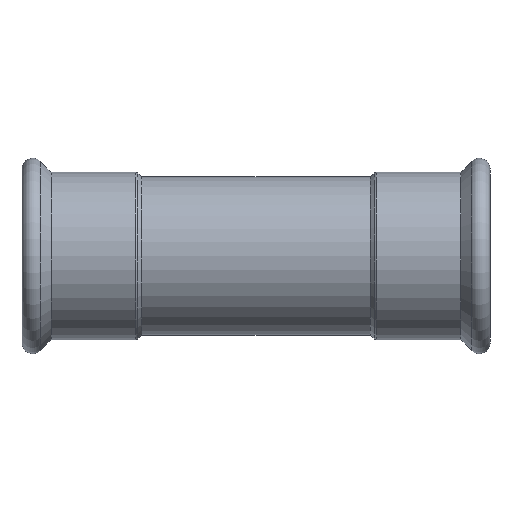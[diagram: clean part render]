
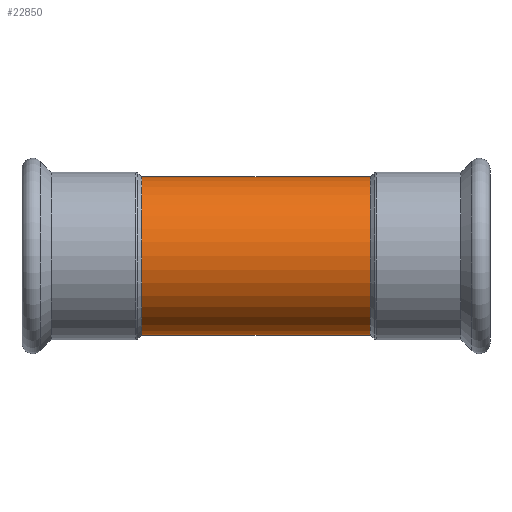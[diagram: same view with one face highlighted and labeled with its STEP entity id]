
A CAD part, top view. The second image highlights one B-rep face of the part: STEP entity #22850.
In plain terms, the highlighted cylindrical face has radius 44.45 mm (diameter 88.9 mm), a partial arc.
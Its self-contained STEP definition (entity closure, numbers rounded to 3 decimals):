
#4210=CARTESIAN_POINT('',(-383.291,-11.065,44.45));
#4220=VERTEX_POINT('',#4210);
#4300=CARTESIAN_POINT('',(-383.291,-11.065,-44.45));
#4310=VERTEX_POINT('',#4300);
#4340=CARTESIAN_POINT('',(-383.291,-11.065,
0.));
#4350=DIRECTION('',(1.,0.,0.));
#4360=DIRECTION('',(0.,0.,1.));
#4370=AXIS2_PLACEMENT_3D('',#4340,#4350,#4360);
#4380=CIRCLE('',#4370,44.45);
#5260=CARTESIAN_POINT('',(-255.291,-11.065,
0.));
#5270=DIRECTION('',(1.,0.,0.));
#5280=DIRECTION('',(0.,0.,1.));
#5290=AXIS2_PLACEMENT_3D('',#5260,#5270,#5280);
#5300=CYLINDRICAL_SURFACE('',#5290,44.45);
#9550=CARTESIAN_POINT('',(-255.291,-11.065,-44.45));
#9560=DIRECTION('',(1.,0.,0.));
#9570=VECTOR('',#9560,1.);
#9580=LINE('',#9550,#9570);
#9590=CARTESIAN_POINT('',(-255.291,-11.065,-44.45));
#9600=VERTEX_POINT('',#9590);
#9610=EDGE_CURVE('',#4310,#9600,#9580,.T.);
#9630=CARTESIAN_POINT('',(-255.291,-11.065,
0.));
#9640=DIRECTION('',(1.,0.,0.));
#9650=DIRECTION('',(0.,0.,-1.));
#9660=AXIS2_PLACEMENT_3D('',#9630,#9640,#9650);
#9670=CIRCLE('',#9660,44.45);
#9680=CARTESIAN_POINT('',(-255.291,-11.065,44.45));
#9690=VERTEX_POINT('',#9680);
#9720=CARTESIAN_POINT('',(-255.291,-11.065,44.45));
#9730=DIRECTION('',(1.,0.,0.));
#9740=VECTOR('',#9730,1.);
#9750=LINE('',#9720,#9740);
#9760=EDGE_CURVE('',#4220,#9690,#9750,.T.);
#22770=EDGE_CURVE('',#9690,#9600,#9670,.T.);
#22780=ORIENTED_EDGE('',*,*,#22770,.F.);
#22790=ORIENTED_EDGE('',*,*,#9610,.T.);
#22800=EDGE_CURVE('',#4220,#4310,#4380,.T.);
#22810=ORIENTED_EDGE('',*,*,#22800,.T.);
#22820=ORIENTED_EDGE('',*,*,#9760,.F.);
#22830=EDGE_LOOP('',(#22820,#22810,#22790,#22780));
#22840=FACE_OUTER_BOUND('',#22830,.T.);
#22850=ADVANCED_FACE('',(#22840),#5300,.T.);
